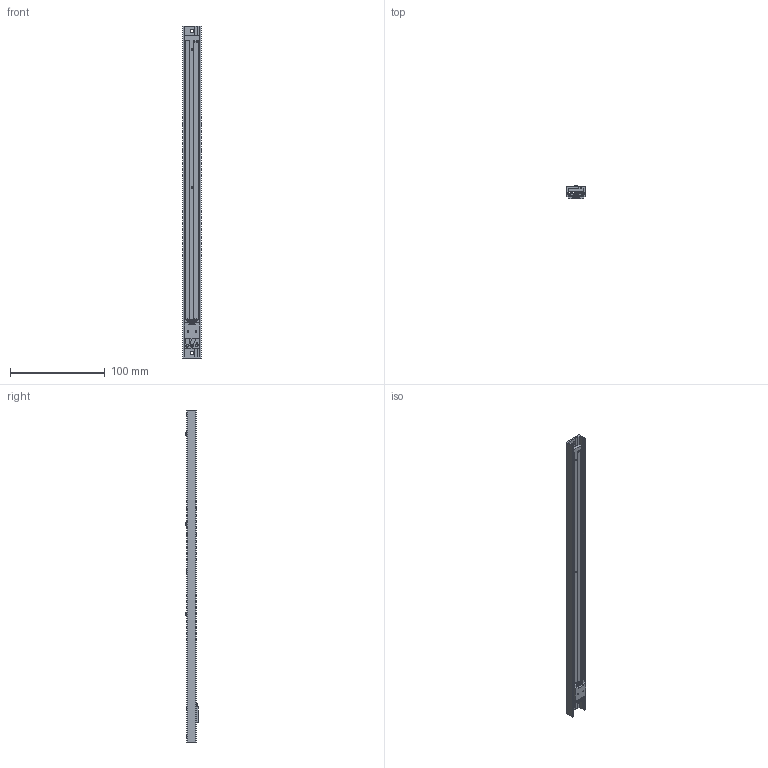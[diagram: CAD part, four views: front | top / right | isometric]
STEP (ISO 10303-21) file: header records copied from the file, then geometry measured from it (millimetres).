
FILE_DESCRIPTION (( 'STEP AP203' ), '1' );
FILE_NAME ('MEGATRON CFL300.STEP', '2022-09-06T08:38:28', ( '' ), ( '' ), 'SwSTEP 2.0', 'SolidWorks 2022', '' );
FILE_SCHEMA (( 'CONFIG_CONTROL_DESIGN' ));
Length unit declared in the file: millimetre
Products named in the file (1): MEGATRON  CFL300
Bounding box: 20 x 13.4 x 350 mm (x, y, z)
Volume: 39479.8 mm3; surface area: 31127 mm2
Topology: 17 solids, 19 shells, 540 faces, 1309 edges, 832 vertices
Faces by surface type: plane 257, cylinder 194, torus 54, cone 31, sphere 3, bspline 1
Entity records: 16076 total; most frequent: CARTESIAN_POINT 3116, DIRECTION 2812, ORIENTED_EDGE 2606, EDGE_CURVE 1303, AXIS2_PLACEMENT_3D 1047, VERTEX_POINT 829, VECTOR 718, LINE 718
